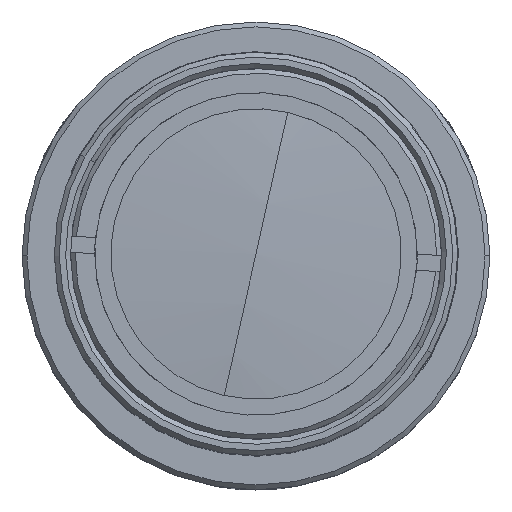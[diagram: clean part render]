
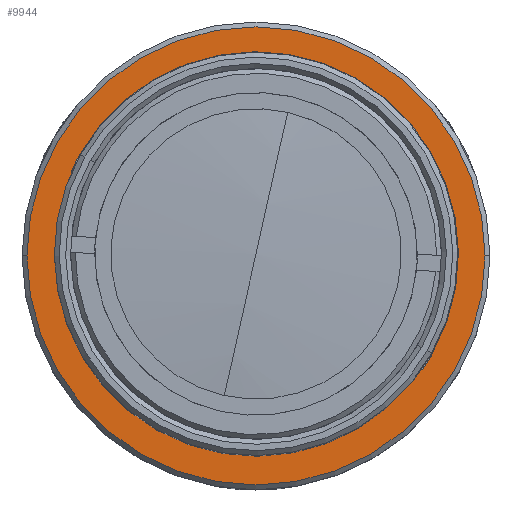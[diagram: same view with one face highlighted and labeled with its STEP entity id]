
A CAD part, top view. The second image highlights one B-rep face of the part: STEP entity #9944.
In plain terms, the highlighted planar face has unit normal (0, 0, 1).
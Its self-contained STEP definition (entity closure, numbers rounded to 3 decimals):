
#171 = CIRCLE ( 'NONE', #9230, 8.3 ) ;
#331 = DIRECTION ( 'NONE',  ( -1., 0., 0. ) ) ;
#437 = VERTEX_POINT ( 'NONE', #13021 ) ;
#504 = DIRECTION ( 'NONE',  ( -1., 0., 0. ) ) ;
#1218 = PLANE ( 'NONE',  #6714 ) ;
#1732 = AXIS2_PLACEMENT_3D ( 'NONE', #2905, #5937, #3937 ) ;
#1886 = DIRECTION ( 'NONE',  ( 0., 0., -1. ) ) ;
#2391 = EDGE_CURVE ( 'NONE', #8523, #9918, #4851, .T. ) ;
#2631 = ORIENTED_EDGE ( 'NONE', *, *, #2391, .T. ) ;
#2639 = EDGE_LOOP ( 'NONE', ( #2818, #6951 ) ) ;
#2818 = ORIENTED_EDGE ( 'NONE', *, *, #7324, .T. ) ;
#2905 = CARTESIAN_POINT ( 'NONE',  ( 0., 0., 24.026 ) ) ;
#3280 = DIRECTION ( 'NONE',  ( 0., 0., 1. ) ) ;
#3834 = EDGE_CURVE ( 'NONE', #9918, #8523, #5414, .T. ) ;
#3924 = DIRECTION ( 'NONE',  ( -1., 0., 0. ) ) ;
#3937 = DIRECTION ( 'NONE',  ( -1., 0., 0. ) ) ;
#4395 = FACE_BOUND ( 'NONE', #2639, .T. ) ;
#4736 = CARTESIAN_POINT ( 'NONE',  ( -8.3, 0., 24.026 ) ) ;
#4777 = ORIENTED_EDGE ( 'NONE', *, *, #3834, .T. ) ;
#4851 = CIRCLE ( 'NONE', #5975, 14.2 ) ;
#5287 = CARTESIAN_POINT ( 'NONE',  ( -14.2, 0., 24.026 ) ) ;
#5414 = CIRCLE ( 'NONE', #1732, 14.2 ) ;
#5687 = CARTESIAN_POINT ( 'NONE',  ( 0., 0., 24.026 ) ) ;
#5937 = DIRECTION ( 'NONE',  ( 0., 0., 1. ) ) ;
#5975 = AXIS2_PLACEMENT_3D ( 'NONE', #5687, #3280, #504 ) ;
#6059 = CARTESIAN_POINT ( 'NONE',  ( 0., 0., 24.026 ) ) ;
#6714 = AXIS2_PLACEMENT_3D ( 'NONE', #11699, #9582, #331 ) ;
#6951 = ORIENTED_EDGE ( 'NONE', *, *, #9278, .T. ) ;
#7140 = DIRECTION ( 'NONE',  ( 0., 0., -1. ) ) ;
#7165 = VERTEX_POINT ( 'NONE', #4736 ) ;
#7324 = EDGE_CURVE ( 'NONE', #437, #7165, #11234, .T. ) ;
#7459 = EDGE_LOOP ( 'NONE', ( #4777, #2631 ) ) ;
#8166 = CARTESIAN_POINT ( 'NONE',  ( 14.2, 0., 24.026 ) ) ;
#8167 = CARTESIAN_POINT ( 'NONE',  ( 0., 0., 24.026 ) ) ;
#8523 = VERTEX_POINT ( 'NONE', #8166 ) ;
#9053 = AXIS2_PLACEMENT_3D ( 'NONE', #6059, #7140, #3924 ) ;
#9230 = AXIS2_PLACEMENT_3D ( 'NONE', #8167, #1886, #13184 ) ;
#9278 = EDGE_CURVE ( 'NONE', #7165, #437, #171, .T. ) ;
#9582 = DIRECTION ( 'NONE',  ( 0., 0., -1. ) ) ;
#9918 = VERTEX_POINT ( 'NONE', #5287 ) ;
#9944 = ADVANCED_FACE ( 'NONE', ( #4395, #11498 ), #1218, .F. ) ;
#11234 = CIRCLE ( 'NONE', #9053, 8.3 ) ;
#11498 = FACE_OUTER_BOUND ( 'NONE', #7459, .T. ) ;
#11699 = CARTESIAN_POINT ( 'NONE',  ( 0., 8., 24.026 ) ) ;
#13021 = CARTESIAN_POINT ( 'NONE',  ( 8.3, 0., 24.026 ) ) ;
#13184 = DIRECTION ( 'NONE',  ( -1., 0., 0. ) ) ;
